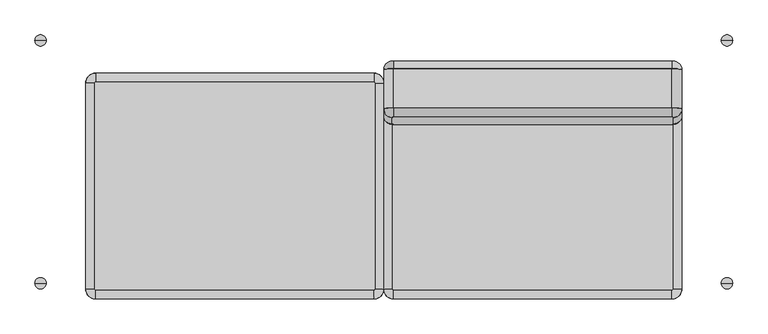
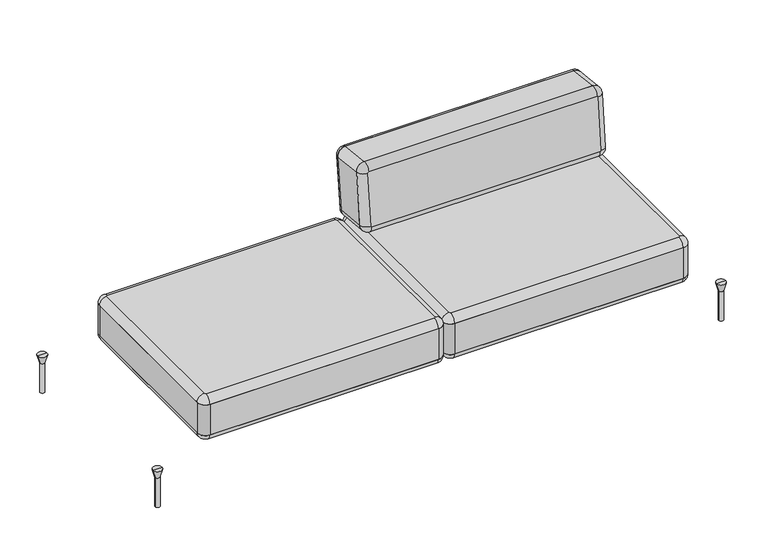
"""IFC4 building model written with IfcOpenShell, lengths in millimetres: furniture geometry, Sofa_Bensen_Neo_NEO300IT : Sofa_Bensen_Neo_NEO300IT."""

from ifc_helpers import new_model, si_unit, point, frame, frame_2d, origin, place, context, project, spatial, polyline, circle_curve, ellipse_curve, trimmed, segment, composite_curve, outline, extrude, source, transform, mapped, element, save
from ifc_brep_helpers import plane_surface, cylinder_surface, revolved_surface, advanced_brep


def furniture_9244cffa(model_context):
    return source(origin(), model_context, "Body", "SolidModel", [
        advanced_brep(
        [(1019.9999999, -485.7516759, 289.4004127), (1054.9999999, -450.7516759, 289.4004127), (1054.9999999, 279.2483241, 289.4004127), (1019.9999999, 314.2483241, 289.4004127), (34.9999999, 314.2483241, 289.4004127), (-1e-07, 279.2483241, 289.4004127), (-1e-07, -450.7516759, 289.4004127), (34.9999999, -485.7516759, 289.4004127), (1024.9999999, -450.7516759, 259.4004127), (1019.9999999, -455.7516759, 259.4004127), (34.9999999, -455.7516759, 259.4004127), (29.9999999, -450.7516759, 259.4004127), (29.9999999, 279.2483241, 259.4004127), (34.9999999, 284.2483241, 259.4004127), (1019.9999999, 284.2483241, 259.4004127), (1024.9999999, 279.2483241, 259.4004127)],
        [
            (0, 1, circle_curve(frame((1019.9999999, -450.7516759, 289.4004127), z_axis=(0.0, 0.0, 1.0), x_axis=(1.0, 0.0, 0.0)), 35.0)),
            (1, 2),
            (2, 3, circle_curve(frame((1019.9999999, 279.2483241, 289.4004127), z_axis=(0.0, 0.0, 1.0), x_axis=(0.0, 1.0, 0.0)), 35.0)),
            (3, 4),
            (4, 5, circle_curve(frame((34.9999999, 279.2483241, 289.4004127), z_axis=(0.0, 0.0, 1.0), x_axis=(-1.0, 0.0, 0.0)), 35.0)),
            (5, 6),
            (6, 7, circle_curve(frame((34.9999999, -450.7516759, 289.4004127), z_axis=(0.0, 0.0, 1.0), x_axis=(0.0, -1.0, 0.0)), 35.0)),
            (7, 0),
            (8, 9, circle_curve(frame((1019.9999999, -450.7516759, 259.4004127), z_axis=(0.0, 0.0, -1.0), x_axis=(1.0, 0.0, 0.0)), 5.0)),
            (9, 10),
            (10, 11, circle_curve(frame((34.9999999, -450.7516759, 259.4004127), z_axis=(0.0, 0.0, -1.0), x_axis=(0.0, -1.0, 0.0)), 5.0)),
            (11, 12),
            (12, 13, circle_curve(frame((34.9999999, 279.2483241, 259.4004127), z_axis=(0.0, 0.0, -1.0), x_axis=(-1.0, 0.0, 0.0)), 5.0)),
            (13, 14),
            (14, 15, circle_curve(frame((1019.9999999, 279.2483241, 259.4004127), z_axis=(0.0, 0.0, -1.0), x_axis=(0.0, 1.0, 0.0)), 5.0)),
            (15, 8),
            (8, 1, circle_curve(frame((1024.9999999, -450.7516759, 289.4004127), z_axis=(0.0, -1.0, 0.0), x_axis=(1.0, 0.0, 0.0)), 30.0)),
            (0, 9, circle_curve(frame((1019.9999999, -455.7516759, 289.4004127), z_axis=(1.0, 0.0, 0.0), x_axis=(0.0, -1.0, 0.0)), 30.0)),
            (7, 10, circle_curve(frame((34.9999999, -455.7516759, 289.4004127), z_axis=(1.0, 0.0, 0.0), x_axis=(0.0, -1.0, 0.0)), 30.0)),
            (6, 11, circle_curve(frame((29.9999999, -450.7516759, 289.4004127), z_axis=(0.0, -1.0, 0.0), x_axis=(-1.0, 0.0, 0.0)), 30.0)),
            (5, 12, circle_curve(frame((29.9999999, 279.2483241, 289.4004127), z_axis=(0.0, -1.0, 0.0), x_axis=(-1.0, 0.0, 0.0)), 30.0)),
            (4, 13, circle_curve(frame((34.9999999, 284.2483241, 289.4004127), z_axis=(-1.0, 0.0, 0.0), x_axis=(0.0, 1.0, 0.0)), 30.0)),
            (3, 14, circle_curve(frame((1019.9999999, 284.2483241, 289.4004127), z_axis=(-1.0, 0.0, 0.0), x_axis=(0.0, 1.0, 0.0)), 30.0)),
            (2, 15, circle_curve(frame((1024.9999999, 279.2483241, 289.4004127), z_axis=(0.0, 1.0, 0.0), x_axis=(1.0, 0.0, 0.0)), 30.0)),
        ],
        [
            plane_surface(frame((1019.9999999, 274.2483241, 289.4004127), z_axis=(0.0, 0.0, 1.0), x_axis=(1.0, 0.0, 0.0))),
            plane_surface(frame((1019.9999999, 274.2483241, 259.4004127), z_axis=(0.0, 0.0, -1.0), x_axis=(-1.0, 0.0, 0.0))),
            revolved_surface(trimmed(ellipse_curve(frame((1024.9999999, -450.7516759, 289.4004127), z_axis=(0.0, 1.0, 0.0), x_axis=(1.0, 0.0, 0.0)), 30.0, 30.0), [point((1054.9999999, -450.7516759, 289.4004127))], [point((1024.9999999, -450.7516759, 259.4004127))], True, "CARTESIAN"), (1019.9999999, -450.7516759, 289.4004127), (0.0, 0.0, -1.0)),
            cylinder_surface(frame((1019.9999999, -455.7516759, 289.4004127), z_axis=(1.0, 0.0, 0.0), x_axis=(0.0, -1.0, 0.0)), 30.0),
            revolved_surface(trimmed(ellipse_curve(frame((34.9999999, -455.7516759, 289.4004127), z_axis=(1.0, 0.0, 0.0), x_axis=(0.0, -1.0, 0.0)), 30.0, 30.0), [point((34.9999999, -485.7516759, 289.4004127))], [point((34.9999999, -455.7516759, 259.4004127))], True, "CARTESIAN"), (34.9999999, -450.7516759, 289.4004127), (0.0, 0.0, -1.0)),
            cylinder_surface(frame((29.9999999, -450.7516759, 289.4004127), z_axis=(0.0, -1.0, 0.0), x_axis=(-1.0, 0.0, 0.0)), 30.0),
            revolved_surface(trimmed(ellipse_curve(frame((29.9999999, 279.2483241, 289.4004127), z_axis=(0.0, -1.0, 0.0), x_axis=(-1.0, 0.0, 0.0)), 30.0, 30.0), [point((-1e-07, 279.2483241, 289.4004127))], [point((29.9999999, 279.2483241, 259.4004127))], True, "CARTESIAN"), (34.9999999, 279.2483241, 289.4004127), (0.0, 0.0, -1.0)),
            cylinder_surface(frame((34.9999999, 284.2483241, 289.4004127), z_axis=(-1.0, 0.0, 0.0), x_axis=(0.0, 1.0, 0.0)), 30.0),
            revolved_surface(trimmed(ellipse_curve(frame((1019.9999999, 284.2483241, 289.4004127), z_axis=(-1.0, 0.0, 0.0), x_axis=(0.0, 1.0, 0.0)), 30.0, 30.0), [point((1019.9999999, 314.2483241, 289.4004127))], [point((1019.9999999, 284.2483241, 259.4004127))], True, "CARTESIAN"), (1019.9999999, 279.2483241, 289.4004127), (0.0, 0.0, -1.0)),
            cylinder_surface(frame((1024.9999999, 279.2483241, 289.4004127), z_axis=(0.0, 1.0, 0.0), x_axis=(1.0, 0.0, 0.0)), 30.0),
        ],
        [
            (0, [[1, 2, 3, 4, 5, 6, 7, 8]]),
            (1, [[9, 10, 11, 12, 13, 14, 15, 16]]),
            (2, [[17, -1, 18, -9]]),
            (3, [[-18, -8, 19, -10]]),
            (4, [[-19, -7, 20, -11]]),
            (5, [[-20, -6, 21, -12]]),
            (6, [[-21, -5, 22, -13]]),
            (7, [[-22, -4, 23, -14]]),
            (8, [[-23, -3, 24, -15]]),
            (9, [[-17, -16, -24, -2]]),
        ],
    ),
        advanced_brep(
        [(1019.9999999, -485.7516759, 429.4004127), (1054.9999999, -450.7516759, 429.4004127), (1024.9999999, -450.7516759, 459.4004127), (1019.9999999, -455.7516759, 459.4004127), (34.9999999, -455.7516759, 459.4004127), (34.9999999, -485.7516759, 429.4004127), (29.9999999, -450.7516759, 459.4004127), (-1e-07, -450.7516759, 429.4004127), (29.9999999, 279.2483241, 459.4004127), (-1e-07, 279.2483241, 429.4004127), (34.9999999, 284.2483241, 459.4004127), (34.9999999, 314.2483241, 429.4004127), (1019.9999999, 284.2483241, 459.4004127), (1019.9999999, 314.2483241, 429.4004127), (1024.9999999, 279.2483241, 459.4004127), (1054.9999999, 279.2483241, 429.4004127)],
        [
            (0, 1, circle_curve(frame((1019.9999999, -450.7516759, 429.4004127), z_axis=(0.0, 0.0, 1.0), x_axis=(1.0, 0.0, 0.0)), 35.0)),
            (1, 2, circle_curve(frame((1024.9999999, -450.7516759, 429.4004127), z_axis=(0.0, -1.0, 0.0), x_axis=(1.0, 0.0, 0.0)), 30.0)),
            (2, 3, circle_curve(frame((1019.9999999, -450.7516759, 459.4004127), z_axis=(0.0, 0.0, -1.0), x_axis=(1.0, 0.0, 0.0)), 5.0)),
            (3, 0, circle_curve(frame((1019.9999999, -455.7516759, 429.4004127), z_axis=(1.0, 0.0, 0.0), x_axis=(0.0, -1.0, 0.0)), 30.0)),
            (3, 4),
            (4, 5, circle_curve(frame((34.9999999, -455.7516759, 429.4004127), z_axis=(1.0, 0.0, 0.0), x_axis=(0.0, -1.0, 0.0)), 30.0)),
            (5, 0),
            (4, 6, circle_curve(frame((34.9999999, -450.7516759, 459.4004127), z_axis=(0.0, 0.0, -1.0), x_axis=(0.0, -1.0, 0.0)), 5.0)),
            (6, 7, circle_curve(frame((29.9999999, -450.7516759, 429.4004127), z_axis=(0.0, -1.0, 0.0), x_axis=(-1.0, 0.0, 0.0)), 30.0)),
            (7, 5, circle_curve(frame((34.9999999, -450.7516759, 429.4004127), z_axis=(0.0, 0.0, 1.0), x_axis=(0.0, -1.0, 0.0)), 35.0)),
            (6, 8),
            (8, 9, circle_curve(frame((29.9999999, 279.2483241, 429.4004127), z_axis=(0.0, -1.0, 0.0), x_axis=(-1.0, 0.0, 0.0)), 30.0)),
            (9, 7),
            (8, 10, circle_curve(frame((34.9999999, 279.2483241, 459.4004127), z_axis=(0.0, 0.0, -1.0), x_axis=(-1.0, 0.0, 0.0)), 5.0)),
            (10, 11, circle_curve(frame((34.9999999, 284.2483241, 429.4004127), z_axis=(-1.0, 0.0, 0.0), x_axis=(0.0, 1.0, 0.0)), 30.0)),
            (11, 9, circle_curve(frame((34.9999999, 279.2483241, 429.4004127), z_axis=(0.0, 0.0, 1.0), x_axis=(-1.0, 0.0, 0.0)), 35.0)),
            (10, 12),
            (12, 13, circle_curve(frame((1019.9999999, 284.2483241, 429.4004127), z_axis=(-1.0, 0.0, 0.0), x_axis=(0.0, 1.0, 0.0)), 30.0)),
            (13, 11),
            (12, 14, circle_curve(frame((1019.9999999, 279.2483241, 459.4004127), z_axis=(0.0, 0.0, -1.0), x_axis=(0.0, 1.0, 0.0)), 5.0)),
            (14, 15, circle_curve(frame((1024.9999999, 279.2483241, 429.4004127), z_axis=(0.0, 1.0, 0.0), x_axis=(1.0, 0.0, 0.0)), 30.0)),
            (15, 13, circle_curve(frame((1019.9999999, 279.2483241, 429.4004127), z_axis=(0.0, 0.0, 1.0), x_axis=(0.0, 1.0, 0.0)), 35.0)),
            (1, 15),
            (14, 2),
        ],
        [
            revolved_surface(trimmed(ellipse_curve(frame((1024.9999999, -450.7516759, 429.4004127), z_axis=(0.0, 1.0, 0.0), x_axis=(1.0, 0.0, 0.0)), 30.0, 30.0), [point((1024.9999999, -450.7516759, 459.4004127))], [point((1054.9999999, -450.7516759, 429.4004127))], True, "CARTESIAN"), (1019.9999999, -450.7516759, 259.4004127), (0.0, 0.0, -1.0)),
            cylinder_surface(frame((1019.9999999, -455.7516759, 429.4004127), z_axis=(1.0, 0.0, 0.0), x_axis=(0.0, -1.0, 0.0)), 30.0),
            revolved_surface(trimmed(ellipse_curve(frame((34.9999999, -455.7516759, 429.4004127), z_axis=(1.0, 0.0, 0.0), x_axis=(0.0, -1.0, 0.0)), 30.0, 30.0), [point((34.9999999, -455.7516759, 459.4004127))], [point((34.9999999, -485.7516759, 429.4004127))], True, "CARTESIAN"), (34.9999999, -450.7516759, 259.4004127), (0.0, 0.0, -1.0)),
            cylinder_surface(frame((29.9999999, -450.7516759, 429.4004127), z_axis=(0.0, -1.0, 0.0), x_axis=(-1.0, 0.0, 0.0)), 30.0),
            revolved_surface(trimmed(ellipse_curve(frame((29.9999999, 279.2483241, 429.4004127), z_axis=(0.0, -1.0, 0.0), x_axis=(-1.0, 0.0, 0.0)), 30.0, 30.0), [point((29.9999999, 279.2483241, 459.4004127))], [point((-1e-07, 279.2483241, 429.4004127))], True, "CARTESIAN"), (34.9999999, 279.2483241, 259.4004127), (0.0, 0.0, -1.0)),
            cylinder_surface(frame((34.9999999, 284.2483241, 429.4004127), z_axis=(-1.0, 0.0, 0.0), x_axis=(0.0, 1.0, 0.0)), 30.0),
            revolved_surface(trimmed(ellipse_curve(frame((1019.9999999, 284.2483241, 429.4004127), z_axis=(-1.0, 0.0, 0.0), x_axis=(0.0, 1.0, 0.0)), 30.0, 30.0), [point((1019.9999999, 284.2483241, 459.4004127))], [point((1019.9999999, 314.2483241, 429.4004127))], True, "CARTESIAN"), (1019.9999999, 279.2483241, 259.4004127), (0.0, 0.0, -1.0)),
            cylinder_surface(frame((1024.9999999, 279.2483241, 429.4004127), z_axis=(0.0, 1.0, 0.0), x_axis=(1.0, 0.0, 0.0)), 30.0),
            plane_surface(frame((1054.9999999, 279.2483241, 429.4004127), z_axis=(0.0, 0.0, -1.0), x_axis=(0.0, -1.0, 0.0))),
            plane_surface(frame((1019.9999999, 274.2483241, 459.4004127), z_axis=(0.0, 0.0, 1.0), x_axis=(1.0, 0.0, 0.0))),
        ],
        [
            (0, [[1, 2, 3, 4]]),
            (1, [[-4, 5, 6, 7]]),
            (2, [[-6, 8, 9, 10]]),
            (3, [[-9, 11, 12, 13]]),
            (4, [[-12, 14, 15, 16]]),
            (5, [[-15, 17, 18, 19]]),
            (6, [[-18, 20, 21, 22]]),
            (7, [[-2, 23, -21, 24]]),
            (8, [[-1, -7, -10, -13, -16, -19, -22, -23]]),
            (9, [[-3, -24, -20, -17, -14, -11, -8, -5]]),
        ],
    ),
        extrude(outline(composite_curve([segment(polyline([(1054.9999999, 279.2483241), (1054.9999999, -450.7516759)]), True, "CONTINUOUS"), segment(trimmed(circle_curve(frame_2d((1019.9999999, -450.7516759)), 35.0), [point((1054.9999999, -450.7516759))], [point((1019.9999999, -485.7516759))], False, "CARTESIAN"), True, "CONTINUOUS"), segment(polyline([(1019.9999999, -485.7516759), (34.9999999, -485.7516759)]), True, "CONTINUOUS"), segment(trimmed(circle_curve(frame_2d((34.9999999, -450.7516759)), 35.0), [point((34.9999999, -485.7516759))], [point((-1e-07, -450.7516759))], False, "CARTESIAN"), True, "CONTINUOUS"), segment(polyline([(-1e-07, -450.7516759), (-1e-07, 279.2483241)]), True, "CONTINUOUS"), segment(trimmed(circle_curve(frame_2d((34.9999999, 279.2483241)), 35.0), [point((-1e-07, 279.2483241))], [point((34.9999999, 314.2483241))], False, "CARTESIAN"), True, "CONTINUOUS"), segment(polyline([(34.9999999, 314.2483241), (1019.9999999, 314.2483241)]), True, "CONTINUOUS"), segment(trimmed(circle_curve(frame_2d((1019.9999999, 279.2483241)), 35.0), [point((1019.9999999, 314.2483241))], [point((1054.9999999, 279.2483241))], False, "CARTESIAN"), True, "CONTINUOUS")], self_intersect=False)), frame((0.0, 0.0, 289.4004127), z_axis=(0.0, 0.0, 1.0), x_axis=(1.0, 0.0, 0.0)), (0.0, 0.0, 1.0), 140.0),
        advanced_brep(
        [(-35.0000001, -485.7516759, 289.4004127), (-1e-07, -450.7516759, 289.4004127), (-1e-07, 279.2483241, 289.4004127), (-35.0000001, 314.2483241, 289.4004127), (-1020.0000001, 314.2483241, 289.4004127), (-1055.0000001, 279.2483241, 289.4004127), (-1055.0000001, -450.7516759, 289.4004127), (-1020.0000001, -485.7516759, 289.4004127), (-30.0000001, -450.7516759, 259.4004127), (-35.0000001, -455.7516759, 259.4004127), (-1020.0000001, -455.7516759, 259.4004127), (-1025.0000001, -450.7516759, 259.4004127), (-1025.0000001, 279.2483241, 259.4004127), (-1020.0000001, 284.2483241, 259.4004127), (-35.0000001, 284.2483241, 259.4004127), (-30.0000001, 279.2483241, 259.4004127)],
        [
            (0, 1, circle_curve(frame((-35.0000001, -450.7516759, 289.4004127), z_axis=(0.0, 0.0, 1.0), x_axis=(1.0, 0.0, 0.0)), 35.0)),
            (1, 2),
            (2, 3, circle_curve(frame((-35.0000001, 279.2483241, 289.4004127), z_axis=(0.0, 0.0, 1.0), x_axis=(0.0, 1.0, 0.0)), 35.0)),
            (3, 4),
            (4, 5, circle_curve(frame((-1020.0000001, 279.2483241, 289.4004127), z_axis=(0.0, 0.0, 1.0), x_axis=(-1.0, 0.0, 0.0)), 35.0)),
            (5, 6),
            (6, 7, circle_curve(frame((-1020.0000001, -450.7516759, 289.4004127), z_axis=(0.0, 0.0, 1.0), x_axis=(0.0, -1.0, 0.0)), 35.0)),
            (7, 0),
            (8, 9, circle_curve(frame((-35.0000001, -450.7516759, 259.4004127), z_axis=(0.0, 0.0, -1.0), x_axis=(1.0, 0.0, 0.0)), 5.0)),
            (9, 10),
            (10, 11, circle_curve(frame((-1020.0000001, -450.7516759, 259.4004127), z_axis=(0.0, 0.0, -1.0), x_axis=(0.0, -1.0, 0.0)), 5.0)),
            (11, 12),
            (12, 13, circle_curve(frame((-1020.0000001, 279.2483241, 259.4004127), z_axis=(0.0, 0.0, -1.0), x_axis=(-1.0, 0.0, 0.0)), 5.0)),
            (13, 14),
            (14, 15, circle_curve(frame((-35.0000001, 279.2483241, 259.4004127), z_axis=(0.0, 0.0, -1.0), x_axis=(0.0, 1.0, 0.0)), 5.0)),
            (15, 8),
            (8, 1, circle_curve(frame((-30.0000001, -450.7516759, 289.4004127), z_axis=(0.0, -1.0, 0.0), x_axis=(1.0, 0.0, 0.0)), 30.0)),
            (0, 9, circle_curve(frame((-35.0000001, -455.7516759, 289.4004127), z_axis=(1.0, 0.0, 0.0), x_axis=(0.0, -1.0, 0.0)), 30.0)),
            (7, 10, circle_curve(frame((-1020.0000001, -455.7516759, 289.4004127), z_axis=(1.0, 0.0, 0.0), x_axis=(0.0, -1.0, 0.0)), 30.0)),
            (6, 11, circle_curve(frame((-1025.0000001, -450.7516759, 289.4004127), z_axis=(0.0, -1.0, 0.0), x_axis=(-1.0, 0.0, 0.0)), 30.0)),
            (5, 12, circle_curve(frame((-1025.0000001, 279.2483241, 289.4004127), z_axis=(0.0, -1.0, 0.0), x_axis=(-1.0, 0.0, 0.0)), 30.0)),
            (4, 13, circle_curve(frame((-1020.0000001, 284.2483241, 289.4004127), z_axis=(-1.0, 0.0, 0.0), x_axis=(0.0, 1.0, 0.0)), 30.0)),
            (3, 14, circle_curve(frame((-35.0000001, 284.2483241, 289.4004127), z_axis=(-1.0, 0.0, 0.0), x_axis=(0.0, 1.0, 0.0)), 30.0)),
            (2, 15, circle_curve(frame((-30.0000001, 279.2483241, 289.4004127), z_axis=(0.0, 1.0, 0.0), x_axis=(1.0, 0.0, 0.0)), 30.0)),
        ],
        [
            plane_surface(frame((-35.0000001, 274.2483241, 289.4004127), z_axis=(0.0, 0.0, 1.0), x_axis=(1.0, 0.0, 0.0))),
            plane_surface(frame((-35.0000001, 274.2483241, 259.4004127), z_axis=(0.0, 0.0, -1.0), x_axis=(-1.0, 0.0, 0.0))),
            revolved_surface(trimmed(ellipse_curve(frame((-30.0000001, -450.7516759, 289.4004127), z_axis=(0.0, 1.0, 0.0), x_axis=(1.0, 0.0, 0.0)), 30.0, 30.0), [point((-1e-07, -450.7516759, 289.4004127))], [point((-30.0000001, -450.7516759, 259.4004127))], True, "CARTESIAN"), (-35.0000001, -450.7516759, 289.4004127), (0.0, 0.0, -1.0)),
            cylinder_surface(frame((-35.0000001, -455.7516759, 289.4004127), z_axis=(1.0, 0.0, 0.0), x_axis=(0.0, -1.0, 0.0)), 30.0),
            revolved_surface(trimmed(ellipse_curve(frame((-1020.0000001, -455.7516759, 289.4004127), z_axis=(1.0, 0.0, 0.0), x_axis=(0.0, -1.0, 0.0)), 30.0, 30.0), [point((-1020.0000001, -485.7516759, 289.4004127))], [point((-1020.0000001, -455.7516759, 259.4004127))], True, "CARTESIAN"), (-1020.0000001, -450.7516759, 289.4004127), (0.0, 0.0, -1.0)),
            cylinder_surface(frame((-1025.0000001, -450.7516759, 289.4004127), z_axis=(0.0, -1.0, 0.0), x_axis=(-1.0, 0.0, 0.0)), 30.0),
            revolved_surface(trimmed(ellipse_curve(frame((-1025.0000001, 279.2483241, 289.4004127), z_axis=(0.0, -1.0, 0.0), x_axis=(-1.0, 0.0, 0.0)), 30.0, 30.0), [point((-1055.0000001, 279.2483241, 289.4004127))], [point((-1025.0000001, 279.2483241, 259.4004127))], True, "CARTESIAN"), (-1020.0000001, 279.2483241, 289.4004127), (0.0, 0.0, -1.0)),
            cylinder_surface(frame((-1020.0000001, 284.2483241, 289.4004127), z_axis=(-1.0, 0.0, 0.0), x_axis=(0.0, 1.0, 0.0)), 30.0),
            revolved_surface(trimmed(ellipse_curve(frame((-35.0000001, 284.2483241, 289.4004127), z_axis=(-1.0, 0.0, 0.0), x_axis=(0.0, 1.0, 0.0)), 30.0, 30.0), [point((-35.0000001, 314.2483241, 289.4004127))], [point((-35.0000001, 284.2483241, 259.4004127))], True, "CARTESIAN"), (-35.0000001, 279.2483241, 289.4004127), (0.0, 0.0, -1.0)),
            cylinder_surface(frame((-30.0000001, 279.2483241, 289.4004127), z_axis=(0.0, 1.0, 0.0), x_axis=(1.0, 0.0, 0.0)), 30.0),
        ],
        [
            (0, [[1, 2, 3, 4, 5, 6, 7, 8]]),
            (1, [[9, 10, 11, 12, 13, 14, 15, 16]]),
            (2, [[17, -1, 18, -9]]),
            (3, [[-18, -8, 19, -10]]),
            (4, [[-19, -7, 20, -11]]),
            (5, [[-20, -6, 21, -12]]),
            (6, [[-21, -5, 22, -13]]),
            (7, [[-22, -4, 23, -14]]),
            (8, [[-23, -3, 24, -15]]),
            (9, [[-17, -16, -24, -2]]),
        ],
    ),
        advanced_brep(
        [(-35.0000001, -485.7516759, 429.4004127), (-1e-07, -450.7516759, 429.4004127), (-30.0000001, -450.7516759, 459.4004127), (-35.0000001, -455.7516759, 459.4004127), (-1020.0000001, -455.7516759, 459.4004127), (-1020.0000001, -485.7516759, 429.4004127), (-1025.0000001, -450.7516759, 459.4004127), (-1055.0000001, -450.7516759, 429.4004127), (-1025.0000001, 279.2483241, 459.4004127), (-1055.0000001, 279.2483241, 429.4004127), (-1020.0000001, 284.2483241, 459.4004127), (-1020.0000001, 314.2483241, 429.4004127), (-35.0000001, 284.2483241, 459.4004127), (-35.0000001, 314.2483241, 429.4004127), (-30.0000001, 279.2483241, 459.4004127), (-1e-07, 279.2483241, 429.4004127)],
        [
            (0, 1, circle_curve(frame((-35.0000001, -450.7516759, 429.4004127), z_axis=(0.0, 0.0, 1.0), x_axis=(1.0, 0.0, 0.0)), 35.0)),
            (1, 2, circle_curve(frame((-30.0000001, -450.7516759, 429.4004127), z_axis=(0.0, -1.0, 0.0), x_axis=(1.0, 0.0, 0.0)), 30.0)),
            (2, 3, circle_curve(frame((-35.0000001, -450.7516759, 459.4004127), z_axis=(0.0, 0.0, -1.0), x_axis=(1.0, 0.0, 0.0)), 5.0)),
            (3, 0, circle_curve(frame((-35.0000001, -455.7516759, 429.4004127), z_axis=(1.0, 0.0, 0.0), x_axis=(0.0, -1.0, 0.0)), 30.0)),
            (3, 4),
            (4, 5, circle_curve(frame((-1020.0000001, -455.7516759, 429.4004127), z_axis=(1.0, 0.0, 0.0), x_axis=(0.0, -1.0, 0.0)), 30.0)),
            (5, 0),
            (4, 6, circle_curve(frame((-1020.0000001, -450.7516759, 459.4004127), z_axis=(0.0, 0.0, -1.0), x_axis=(0.0, -1.0, 0.0)), 5.0)),
            (6, 7, circle_curve(frame((-1025.0000001, -450.7516759, 429.4004127), z_axis=(0.0, -1.0, 0.0), x_axis=(-1.0, 0.0, 0.0)), 30.0)),
            (7, 5, circle_curve(frame((-1020.0000001, -450.7516759, 429.4004127), z_axis=(0.0, 0.0, 1.0), x_axis=(0.0, -1.0, 0.0)), 35.0)),
            (6, 8),
            (8, 9, circle_curve(frame((-1025.0000001, 279.2483241, 429.4004127), z_axis=(0.0, -1.0, 0.0), x_axis=(-1.0, 0.0, 0.0)), 30.0)),
            (9, 7),
            (8, 10, circle_curve(frame((-1020.0000001, 279.2483241, 459.4004127), z_axis=(0.0, 0.0, -1.0), x_axis=(-1.0, 0.0, 0.0)), 5.0)),
            (10, 11, circle_curve(frame((-1020.0000001, 284.2483241, 429.4004127), z_axis=(-1.0, 0.0, 0.0), x_axis=(0.0, 1.0, 0.0)), 30.0)),
            (11, 9, circle_curve(frame((-1020.0000001, 279.2483241, 429.4004127), z_axis=(0.0, 0.0, 1.0), x_axis=(-1.0, 0.0, 0.0)), 35.0)),
            (10, 12),
            (12, 13, circle_curve(frame((-35.0000001, 284.2483241, 429.4004127), z_axis=(-1.0, 0.0, 0.0), x_axis=(0.0, 1.0, 0.0)), 30.0)),
            (13, 11),
            (12, 14, circle_curve(frame((-35.0000001, 279.2483241, 459.4004127), z_axis=(0.0, 0.0, -1.0), x_axis=(0.0, 1.0, 0.0)), 5.0)),
            (14, 15, circle_curve(frame((-30.0000001, 279.2483241, 429.4004127), z_axis=(0.0, 1.0, 0.0), x_axis=(1.0, 0.0, 0.0)), 30.0)),
            (15, 13, circle_curve(frame((-35.0000001, 279.2483241, 429.4004127), z_axis=(0.0, 0.0, 1.0), x_axis=(0.0, 1.0, 0.0)), 35.0)),
            (1, 15),
            (14, 2),
        ],
        [
            revolved_surface(trimmed(ellipse_curve(frame((-30.0000001, -450.7516759, 429.4004127), z_axis=(0.0, 1.0, 0.0), x_axis=(1.0, 0.0, 0.0)), 30.0, 30.0), [point((-30.0000001, -450.7516759, 459.4004127))], [point((-1e-07, -450.7516759, 429.4004127))], True, "CARTESIAN"), (-35.0000001, -450.7516759, 259.4004127), (0.0, 0.0, -1.0)),
            cylinder_surface(frame((-35.0000001, -455.7516759, 429.4004127), z_axis=(1.0, 0.0, 0.0), x_axis=(0.0, -1.0, 0.0)), 30.0),
            revolved_surface(trimmed(ellipse_curve(frame((-1020.0000001, -455.7516759, 429.4004127), z_axis=(1.0, 0.0, 0.0), x_axis=(0.0, -1.0, 0.0)), 30.0, 30.0), [point((-1020.0000001, -455.7516759, 459.4004127))], [point((-1020.0000001, -485.7516759, 429.4004127))], True, "CARTESIAN"), (-1020.0000001, -450.7516759, 259.4004127), (0.0, 0.0, -1.0)),
            cylinder_surface(frame((-1025.0000001, -450.7516759, 429.4004127), z_axis=(0.0, -1.0, 0.0), x_axis=(-1.0, 0.0, 0.0)), 30.0),
            revolved_surface(trimmed(ellipse_curve(frame((-1025.0000001, 279.2483241, 429.4004127), z_axis=(0.0, -1.0, 0.0), x_axis=(-1.0, 0.0, 0.0)), 30.0, 30.0), [point((-1025.0000001, 279.2483241, 459.4004127))], [point((-1055.0000001, 279.2483241, 429.4004127))], True, "CARTESIAN"), (-1020.0000001, 279.2483241, 259.4004127), (0.0, 0.0, -1.0)),
            cylinder_surface(frame((-1020.0000001, 284.2483241, 429.4004127), z_axis=(-1.0, 0.0, 0.0), x_axis=(0.0, 1.0, 0.0)), 30.0),
            revolved_surface(trimmed(ellipse_curve(frame((-35.0000001, 284.2483241, 429.4004127), z_axis=(-1.0, 0.0, 0.0), x_axis=(0.0, 1.0, 0.0)), 30.0, 30.0), [point((-35.0000001, 284.2483241, 459.4004127))], [point((-35.0000001, 314.2483241, 429.4004127))], True, "CARTESIAN"), (-35.0000001, 279.2483241, 259.4004127), (0.0, 0.0, -1.0)),
            cylinder_surface(frame((-30.0000001, 279.2483241, 429.4004127), z_axis=(0.0, 1.0, 0.0), x_axis=(1.0, 0.0, 0.0)), 30.0),
            plane_surface(frame((-1e-07, 279.2483241, 429.4004127), z_axis=(0.0, 0.0, -1.0), x_axis=(0.0, -1.0, 0.0))),
            plane_surface(frame((-35.0000001, 274.2483241, 459.4004127), z_axis=(0.0, 0.0, 1.0), x_axis=(1.0, 0.0, 0.0))),
        ],
        [
            (0, [[1, 2, 3, 4]]),
            (1, [[-4, 5, 6, 7]]),
            (2, [[-6, 8, 9, 10]]),
            (3, [[-9, 11, 12, 13]]),
            (4, [[-12, 14, 15, 16]]),
            (5, [[-15, 17, 18, 19]]),
            (6, [[-18, 20, 21, 22]]),
            (7, [[-2, 23, -21, 24]]),
            (8, [[-1, -7, -10, -13, -16, -19, -22, -23]]),
            (9, [[-3, -24, -20, -17, -14, -11, -8, -5]]),
        ],
    ),
        extrude(outline(composite_curve([segment(polyline([(-1e-07, 279.2483241), (-1e-07, -450.7516759)]), True, "CONTINUOUS"), segment(trimmed(circle_curve(frame_2d((-35.0000001, -450.7516759)), 35.0), [point((-1e-07, -450.7516759))], [point((-35.0000001, -485.7516759))], False, "CARTESIAN"), True, "CONTINUOUS"), segment(polyline([(-35.0000001, -485.7516759), (-1020.0000001, -485.7516759)]), True, "CONTINUOUS"), segment(trimmed(circle_curve(frame_2d((-1020.0000001, -450.7516759)), 35.0), [point((-1020.0000001, -485.7516759))], [point((-1055.0000001, -450.7516759))], False, "CARTESIAN"), True, "CONTINUOUS"), segment(polyline([(-1055.0000001, -450.7516759), (-1055.0000001, 279.2483241)]), True, "CONTINUOUS"), segment(trimmed(circle_curve(frame_2d((-1020.0000001, 279.2483241)), 35.0), [point((-1055.0000001, 279.2483241))], [point((-1020.0000001, 314.2483241))], False, "CARTESIAN"), True, "CONTINUOUS"), segment(polyline([(-1020.0000001, 314.2483241), (-35.0000001, 314.2483241)]), True, "CONTINUOUS"), segment(trimmed(circle_curve(frame_2d((-35.0000001, 279.2483241)), 35.0), [point((-35.0000001, 314.2483241))], [point((-1e-07, 279.2483241))], False, "CARTESIAN"), True, "CONTINUOUS")], self_intersect=False)), frame((0.0, 0.0, 289.4004127), z_axis=(0.0, 0.0, 1.0), x_axis=(1.0, 0.0, 0.0)), (0.0, 0.0, 1.0), 140.0),
        advanced_brep(
        [(35.0, 330.2036921, 743.2087665), (0.0, 326.5451959, 708.4005002), (0.0, 302.5036494, 479.6604642), (35.0, 298.8451531, 444.8521979), (1020.0, 298.8451531, 444.8521979), (1055.0, 302.5036494, 479.6604642), (1055.0, 326.5451959, 708.4005002), (1020.0, 330.2036921, 743.2087665), (30.0, 356.3808528, 705.2646463), (35.0, 356.9034951, 710.2372557), (1020.0, 356.9034951, 710.2372557), (1025.0, 356.3808528, 705.2646463), (1025.0, 332.3393062, 476.5246103), (1020.0, 331.8166639, 471.5520008), (35.0, 331.8166639, 471.5520008), (30.0, 332.3393062, 476.5246103)],
        [
            (0, 1, circle_curve(frame((35.0, 326.5451959, 708.4005002), z_axis=(0.0, -0.9945218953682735, 0.10452846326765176), x_axis=(-1.0, 0.0, 0.0)), 35.0)),
            (1, 2),
            (2, 3, circle_curve(frame((35.0, 302.5036494, 479.6604642), z_axis=(0.0, -0.9945218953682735, 0.10452846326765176), x_axis=(0.0, -0.10452846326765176, -0.9945218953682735)), 35.0)),
            (3, 4),
            (4, 5, circle_curve(frame((1020.0, 302.5036494, 479.6604642), z_axis=(0.0, -0.9945218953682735, 0.10452846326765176), x_axis=(1.0, 0.0, 0.0)), 35.0)),
            (5, 6),
            (6, 7, circle_curve(frame((1020.0, 326.5451959, 708.4005002), z_axis=(0.0, -0.9945218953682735, 0.10452846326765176), x_axis=(0.0, 0.10452846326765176, 0.9945218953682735)), 35.0)),
            (7, 0),
            (8, 9, circle_curve(frame((35.0, 356.3808528, 705.2646463), z_axis=(0.0, 0.9945218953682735, -0.10452846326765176), x_axis=(-1.0, 0.0, 0.0)), 5.0)),
            (9, 10),
            (10, 11, circle_curve(frame((1020.0, 356.3808528, 705.2646463), z_axis=(0.0, 0.9945218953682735, -0.10452846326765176), x_axis=(0.0, 0.10452846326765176, 0.9945218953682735)), 5.0)),
            (11, 12),
            (12, 13, circle_curve(frame((1020.0, 332.3393062, 476.5246103), z_axis=(0.0, 0.9945218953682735, -0.10452846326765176), x_axis=(1.0, 0.0, 0.0)), 5.0)),
            (13, 14),
            (14, 15, circle_curve(frame((35.0, 332.3393062, 476.5246103), z_axis=(0.0, 0.9945218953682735, -0.10452846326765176), x_axis=(0.0, -0.10452846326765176, -0.9945218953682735)), 5.0)),
            (15, 8),
            (8, 1, circle_curve(frame((30.0, 326.5451959, 708.4005002), z_axis=(0.0, 0.10452846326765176, 0.9945218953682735), x_axis=(-1.0, 0.0, 0.0)), 30.0)),
            (0, 9, circle_curve(frame((35.0, 327.0678382, 713.3731096), z_axis=(-1.0, 0.0, 0.0), x_axis=(0.0, 0.10452846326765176, 0.9945218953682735)), 30.0)),
            (7, 10, circle_curve(frame((1020.0, 327.0678382, 713.3731096), z_axis=(-1.0, 0.0, 0.0), x_axis=(0.0, 0.10452846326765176, 0.9945218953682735)), 30.0)),
            (6, 11, circle_curve(frame((1025.0, 326.5451959, 708.4005002), z_axis=(0.0, 0.10452846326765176, 0.9945218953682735), x_axis=(1.0, 0.0, 0.0)), 30.0)),
            (5, 12, circle_curve(frame((1025.0, 302.5036494, 479.6604642), z_axis=(0.0, 0.10452846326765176, 0.9945218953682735), x_axis=(1.0, 0.0, 0.0)), 30.0)),
            (4, 13, circle_curve(frame((1020.0, 301.981007, 474.6878547), z_axis=(1.0, 0.0, 0.0), x_axis=(0.0, -0.10452846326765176, -0.9945218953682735)), 30.0)),
            (3, 14, circle_curve(frame((35.0, 301.981007, 474.6878547), z_axis=(1.0, 0.0, 0.0), x_axis=(0.0, -0.10452846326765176, -0.9945218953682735)), 30.0)),
            (2, 15, circle_curve(frame((30.0, 302.5036494, 479.6604642), z_axis=(0.0, -0.10452846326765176, -0.9945218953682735), x_axis=(-1.0, 0.0, 0.0)), 30.0)),
        ],
        [
            plane_surface(frame((35.0, 303.0262917, 484.6330737), z_axis=(0.0, -0.9945218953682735, 0.10452846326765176), x_axis=(-1.0, 0.0, 0.0))),
            plane_surface(frame((35.0, 332.8619485, 481.4972198), z_axis=(0.0, 0.9945218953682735, -0.10452846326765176), x_axis=(1.0, 0.0, 0.0))),
            revolved_surface(trimmed(ellipse_curve(frame((30.0, 326.5451959, 708.4005002), z_axis=(0.0, -0.10452846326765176, -0.9945218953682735), x_axis=(-1.0, 0.0, 0.0)), 30.0, 30.0), [point((0.0, 326.5451959, 708.4005002))], [point((30.0, 356.3808528, 705.2646463))], True, "CARTESIAN"), (35.0, 326.5451959, 708.4005002), (0.0, 0.9945218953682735, -0.10452846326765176)),
            cylinder_surface(frame((35.0, 327.0678382, 713.3731096), z_axis=(-1.0, 0.0, 0.0), x_axis=(0.0, 0.10452846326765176, 0.9945218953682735)), 30.0),
            revolved_surface(trimmed(ellipse_curve(frame((1020.0, 327.0678382, 713.3731096), z_axis=(-1.0, 0.0, 0.0), x_axis=(0.0, 0.10452846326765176, 0.9945218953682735)), 30.0, 30.0), [point((1020.0, 330.2036921, 743.2087665))], [point((1020.0, 356.9034951, 710.2372557))], True, "CARTESIAN"), (1020.0, 326.5451959, 708.4005002), (0.0, 0.9945218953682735, -0.10452846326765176)),
            cylinder_surface(frame((1025.0, 326.5451959, 708.4005002), z_axis=(0.0, 0.10452846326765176, 0.9945218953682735), x_axis=(1.0, 0.0, 0.0)), 30.0),
            revolved_surface(trimmed(ellipse_curve(frame((1025.0, 302.5036494, 479.6604642), z_axis=(0.0, 0.10452846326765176, 0.9945218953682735), x_axis=(1.0, 0.0, 0.0)), 30.0, 30.0), [point((1055.0, 302.5036494, 479.6604642))], [point((1025.0, 332.3393062, 476.5246103))], True, "CARTESIAN"), (1020.0, 302.5036494, 479.6604642), (0.0, 0.9945218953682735, -0.10452846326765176)),
            cylinder_surface(frame((1020.0, 301.981007, 474.6878547), z_axis=(1.0, 0.0, 0.0), x_axis=(0.0, -0.10452846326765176, -0.9945218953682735)), 30.0),
            revolved_surface(trimmed(ellipse_curve(frame((35.0, 301.981007, 474.6878547), z_axis=(1.0, 0.0, 0.0), x_axis=(0.0, -0.10452846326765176, -0.9945218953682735)), 30.0, 30.0), [point((35.0, 298.8451531, 444.8521979))], [point((35.0, 331.8166639, 471.5520008))], True, "CARTESIAN"), (35.0, 302.5036494, 479.6604642), (0.0, 0.9945218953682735, -0.10452846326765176)),
            cylinder_surface(frame((30.0, 302.5036494, 479.6604642), z_axis=(0.0, -0.10452846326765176, -0.9945218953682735), x_axis=(-1.0, 0.0, 0.0)), 30.0),
        ],
        [
            (0, [[1, 2, 3, 4, 5, 6, 7, 8]]),
            (1, [[9, 10, 11, 12, 13, 14, 15, 16]]),
            (2, [[17, -1, 18, -9]]),
            (3, [[-18, -8, 19, -10]]),
            (4, [[-19, -7, 20, -11]]),
            (5, [[-20, -6, 21, -12]]),
            (6, [[-21, -5, 22, -13]]),
            (7, [[-22, -4, 23, -14]]),
            (8, [[-23, -3, 24, -15]]),
            (9, [[-17, -16, -24, -2]]),
        ],
    ),
        advanced_brep(
        [(35.0, 190.9706268, 757.8427514), (0.0, 187.3121306, 723.034485), (30.0, 157.4764737, 726.1703389), (35.0, 157.999116, 731.1429484), (1020.0, 157.999116, 731.1429484), (1020.0, 190.9706268, 757.8427514), (1025.0, 157.4764737, 726.1703389), (1055.0, 187.3121306, 723.034485), (1025.0, 133.4349271, 497.430303), (1055.0, 163.270584, 494.2944491), (1020.0, 132.9122848, 492.4576935), (1020.0, 159.6120878, 459.4861827), (35.0, 132.9122848, 492.4576935), (35.0, 159.6120878, 459.4861827), (30.0, 133.4349271, 497.430303), (0.0, 163.270584, 494.2944491)],
        [
            (0, 1, circle_curve(frame((35.0, 187.3121306, 723.034485), z_axis=(0.0, -0.9945218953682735, 0.10452846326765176), x_axis=(-1.0, 0.0, 0.0)), 35.0)),
            (1, 2, circle_curve(frame((30.0, 187.3121306, 723.034485), z_axis=(0.0, 0.10452846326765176, 0.9945218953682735), x_axis=(-1.0, 0.0, 0.0)), 30.0)),
            (2, 3, circle_curve(frame((35.0, 157.4764737, 726.1703389), z_axis=(0.0, 0.9945218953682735, -0.10452846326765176), x_axis=(-1.0, 0.0, 0.0)), 5.0)),
            (3, 0, circle_curve(frame((35.0, 187.8347729, 728.0070945), z_axis=(-1.0, 0.0, 0.0), x_axis=(0.0, 0.10452846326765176, 0.9945218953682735)), 30.0)),
            (3, 4),
            (4, 5, circle_curve(frame((1020.0, 187.8347729, 728.0070945), z_axis=(-1.0, 0.0, 0.0), x_axis=(0.0, 0.10452846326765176, 0.9945218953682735)), 30.0)),
            (5, 0),
            (4, 6, circle_curve(frame((1020.0, 157.4764737, 726.1703389), z_axis=(0.0, 0.9945218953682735, -0.10452846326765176), x_axis=(0.0, 0.10452846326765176, 0.9945218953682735)), 5.0)),
            (6, 7, circle_curve(frame((1025.0, 187.3121306, 723.034485), z_axis=(0.0, 0.10452846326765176, 0.9945218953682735), x_axis=(1.0, 0.0, 0.0)), 30.0)),
            (7, 5, circle_curve(frame((1020.0, 187.3121306, 723.034485), z_axis=(0.0, -0.9945218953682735, 0.10452846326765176), x_axis=(0.0, 0.10452846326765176, 0.9945218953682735)), 35.0)),
            (6, 8),
            (8, 9, circle_curve(frame((1025.0, 163.270584, 494.2944491), z_axis=(0.0, 0.10452846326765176, 0.9945218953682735), x_axis=(1.0, 0.0, 0.0)), 30.0)),
            (9, 7),
            (8, 10, circle_curve(frame((1020.0, 133.4349271, 497.430303), z_axis=(0.0, 0.9945218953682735, -0.10452846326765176), x_axis=(1.0, 0.0, 0.0)), 5.0)),
            (10, 11, circle_curve(frame((1020.0, 162.7479417, 489.3218396), z_axis=(1.0, 0.0, 0.0), x_axis=(0.0, -0.10452846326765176, -0.9945218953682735)), 30.0)),
            (11, 9, circle_curve(frame((1020.0, 163.270584, 494.2944491), z_axis=(0.0, -0.9945218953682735, 0.10452846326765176), x_axis=(1.0, 0.0, 0.0)), 35.0)),
            (10, 12),
            (12, 13, circle_curve(frame((35.0, 162.7479417, 489.3218396), z_axis=(1.0, 0.0, 0.0), x_axis=(0.0, -0.10452846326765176, -0.9945218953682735)), 30.0)),
            (13, 11),
            (12, 14, circle_curve(frame((35.0, 133.4349271, 497.430303), z_axis=(0.0, 0.9945218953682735, -0.10452846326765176), x_axis=(0.0, -0.10452846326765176, -0.9945218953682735)), 5.0)),
            (14, 15, circle_curve(frame((30.0, 163.270584, 494.2944491), z_axis=(0.0, -0.10452846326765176, -0.9945218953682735), x_axis=(-1.0, 0.0, 0.0)), 30.0)),
            (15, 13, circle_curve(frame((35.0, 163.270584, 494.2944491), z_axis=(0.0, -0.9945218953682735, 0.10452846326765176), x_axis=(0.0, -0.10452846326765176, -0.9945218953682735)), 35.0)),
            (1, 15),
            (14, 2),
        ],
        [
            revolved_surface(trimmed(ellipse_curve(frame((30.0, 187.3121306, 723.034485), z_axis=(0.0, -0.10452846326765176, -0.9945218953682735), x_axis=(-1.0, 0.0, 0.0)), 30.0, 30.0), [point((30.0, 157.4764737, 726.1703389))], [point((0.0, 187.3121306, 723.034485))], True, "CARTESIAN"), (35.0, 356.3808528, 705.2646463), (0.0, 0.9945218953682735, -0.10452846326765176)),
            cylinder_surface(frame((35.0, 187.8347729, 728.0070945), z_axis=(-1.0, 0.0, 0.0), x_axis=(0.0, 0.10452846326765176, 0.9945218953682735)), 30.0),
            revolved_surface(trimmed(ellipse_curve(frame((1020.0, 187.8347729, 728.0070945), z_axis=(-1.0, 0.0, 0.0), x_axis=(0.0, 0.10452846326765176, 0.9945218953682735)), 30.0, 30.0), [point((1020.0, 157.999116, 731.1429484))], [point((1020.0, 190.9706268, 757.8427514))], True, "CARTESIAN"), (1020.0, 356.3808528, 705.2646463), (0.0, 0.9945218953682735, -0.10452846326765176)),
            cylinder_surface(frame((1025.0, 187.3121306, 723.034485), z_axis=(0.0, 0.10452846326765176, 0.9945218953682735), x_axis=(1.0, 0.0, 0.0)), 30.0),
            revolved_surface(trimmed(ellipse_curve(frame((1025.0, 163.270584, 494.2944491), z_axis=(0.0, 0.10452846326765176, 0.9945218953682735), x_axis=(1.0, 0.0, 0.0)), 30.0, 30.0), [point((1025.0, 133.4349271, 497.430303))], [point((1055.0, 163.270584, 494.2944491))], True, "CARTESIAN"), (1020.0, 332.3393062, 476.5246103), (0.0, 0.9945218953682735, -0.10452846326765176)),
            cylinder_surface(frame((1020.0, 162.7479417, 489.3218396), z_axis=(1.0, 0.0, 0.0), x_axis=(0.0, -0.10452846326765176, -0.9945218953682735)), 30.0),
            revolved_surface(trimmed(ellipse_curve(frame((35.0, 162.7479417, 489.3218396), z_axis=(1.0, 0.0, 0.0), x_axis=(0.0, -0.10452846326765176, -0.9945218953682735)), 30.0, 30.0), [point((35.0, 132.9122848, 492.4576935))], [point((35.0, 159.6120878, 459.4861827))], True, "CARTESIAN"), (35.0, 332.3393062, 476.5246103), (0.0, 0.9945218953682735, -0.10452846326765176)),
            cylinder_surface(frame((30.0, 163.270584, 494.2944491), z_axis=(0.0, -0.10452846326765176, -0.9945218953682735), x_axis=(-1.0, 0.0, 0.0)), 30.0),
            plane_surface(frame((0.0, 163.270584, 494.2944491), z_axis=(0.0, 0.9945218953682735, -0.10452846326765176), x_axis=(0.0, 0.10452846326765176, 0.9945218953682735))),
            plane_surface(frame((35.0, 133.9575695, 502.4029125), z_axis=(0.0, -0.9945218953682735, 0.10452846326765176), x_axis=(-1.0, 0.0, 0.0))),
        ],
        [
            (0, [[1, 2, 3, 4]]),
            (1, [[-4, 5, 6, 7]]),
            (2, [[-6, 8, 9, 10]]),
            (3, [[-9, 11, 12, 13]]),
            (4, [[-12, 14, 15, 16]]),
            (5, [[-15, 17, 18, 19]]),
            (6, [[-18, 20, 21, 22]]),
            (7, [[-2, 23, -21, 24]]),
            (8, [[-1, -7, -10, -13, -16, -19, -22, -23]]),
            (9, [[-3, -24, -20, -17, -14, -11, -8, -5]]),
        ],
    ),
        extrude(outline(composite_curve([segment(polyline([(-35.0, -35.0000001), (-35.0, 195.0)]), True, "CONTINUOUS"), segment(trimmed(circle_curve(frame_2d((0.0, 195.0)), 35.0), [point((-35.0, 195.0))], [point((0.0, 230.0))], False, "CARTESIAN"), True, "CONTINUOUS"), segment(polyline([(0.0, 230.0), (985.0, 230.0)]), True, "CONTINUOUS"), segment(trimmed(circle_curve(frame_2d((985.0, 195.0)), 35.0), [point((985.0, 230.0))], [point((1020.0, 195.0))], False, "CARTESIAN"), True, "CONTINUOUS"), segment(polyline([(1020.0, 195.0), (1020.0, -35.0000001)]), True, "CONTINUOUS"), segment(trimmed(circle_curve(frame_2d((985.0, -35.0000001)), 35.0), [point((1020.0, -35.0000001))], [point((985.0, -70.0))], False, "CARTESIAN"), True, "CONTINUOUS"), segment(polyline([(985.0, -70.0), (0.0, -70.0)]), True, "CONTINUOUS"), segment(trimmed(circle_curve(frame_2d((0.0, -35.0000001)), 35.0), [point((0.0, -70.0))], [point((-35.0, -35.0000001))], False, "CARTESIAN"), True, "CONTINUOUS")], self_intersect=False)), frame((35.0, 306.1621456, 514.4687306), z_axis=(0.0, -0.9945218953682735, 0.10452846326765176), x_axis=(1.0, 0.0, 0.0)), (0.0, 0.0, 1.0), 140.0),
        advanced_brep(
        [(1215.0275996, 430.0263245, 0.0), (1224.8719303, 430.0263245, 0.0), (1205.1832689, 430.0263245, 0.0), (1195.0551992, 430.0263245, 170.0), (1235.0, 430.0263245, 170.0), (1215.0275996, 430.0263245, 170.0), (1205.1832689, 430.0263245, 133.7982678), (1224.8719303, 430.0263245, 133.7982678)],
        [
            (0, 1),
            (1, 2, circle_curve(frame((1215.0275996, 430.0263245, 0.0), z_axis=(0.0, 0.0, -1.0), x_axis=(1.0, 0.0, 0.0)), 9.8443307)),
            (2, 0),
            (2, 1, circle_curve(frame((1215.0275996, 430.0263245, 0.0), z_axis=(0.0, 0.0, -1.0), x_axis=(1.0, 0.0, 0.0)), 9.8443307)),
            (3, 4, circle_curve(frame((1215.0275996, 430.0263245, 170.0), z_axis=(0.0, 0.0, 1.0), x_axis=(1.0, 0.0, 0.0)), 19.9724004)),
            (4, 5),
            (5, 3),
            (4, 3, circle_curve(frame((1215.0275996, 430.0263245, 170.0), z_axis=(0.0, 0.0, 1.0), x_axis=(1.0, 0.0, 0.0)), 19.9724004)),
            (6, 7, circle_curve(frame((1215.0275996, 430.0263245, 133.7982678), z_axis=(0.0, 0.0, 1.0), x_axis=(1.0, 0.0, 0.0)), 9.8443307)),
            (7, 4),
            (3, 6),
            (7, 6, circle_curve(frame((1215.0275996, 430.0263245, 133.7982678), z_axis=(0.0, 0.0, 1.0), x_axis=(1.0, 0.0, 0.0)), 9.8443307)),
            (1, 7),
            (6, 2),
        ],
        [
            plane_surface(frame((1215.0275996, 430.0263245, 0.0), z_axis=(0.0, 0.0, -1.0), x_axis=(1.0, 0.0, 0.0))),
            plane_surface(frame((1215.0275996, 430.0263245, 170.0), z_axis=(0.0, 0.0, 1.0), x_axis=(1.0, 0.0, 0.0))),
            revolved_surface(polyline([(1235.0, 430.0263245, 170.0), (1224.8719303, 430.0263245, 133.7982678)]), (1215.0275996, 430.0263245, 210.0), (0.0, 0.0, -1.0)),
            cylinder_surface(frame((1215.0275996, 430.0263245, 210.0), z_axis=(0.0, 0.0, -1.0), x_axis=(1.0, 0.0, 0.0)), 9.8443307),
        ],
        [
            (0, [[1, 2, 3]]),
            (0, [[-3, 4, -1]]),
            (1, [[5, 6, 7]]),
            (1, [[8, -7, -6]]),
            (2, [[9, 10, -5, 11]]),
            (2, [[12, -11, -8, -10]]),
            (3, [[-2, 13, -9, 14]]),
            (3, [[-4, -14, -12, -13]]),
        ],
    ),
        advanced_brep(
        [(1215.0275996, -430.0263245, 0.0), (1205.1832689, -430.0263245, 0.0), (1224.8719303, -430.0263245, 0.0), (1195.0551992, -430.0263245, 170.0), (1215.0275996, -430.0263245, 170.0), (1235.0, -430.0263245, 170.0), (1205.1832689, -430.0263245, 133.7982678), (1224.8719303, -430.0263245, 133.7982678)],
        [
            (0, 1),
            (1, 2, circle_curve(frame((1215.0275996, -430.0263245, 0.0), z_axis=(0.0, 0.0, -1.0), x_axis=(1.0, 0.0, 0.0)), 9.8443307)),
            (2, 0),
            (2, 1, circle_curve(frame((1215.0275996, -430.0263245, 0.0), z_axis=(0.0, 0.0, -1.0), x_axis=(1.0, 0.0, 0.0)), 9.8443307)),
            (3, 4),
            (4, 5),
            (5, 3, circle_curve(frame((1215.0275996, -430.0263245, 170.0), z_axis=(0.0, 0.0, 1.0), x_axis=(1.0, 0.0, 0.0)), 19.9724004)),
            (3, 5, circle_curve(frame((1215.0275996, -430.0263245, 170.0), z_axis=(0.0, 0.0, 1.0), x_axis=(1.0, 0.0, 0.0)), 19.9724004)),
            (6, 3),
            (5, 7),
            (7, 6, circle_curve(frame((1215.0275996, -430.0263245, 133.7982678), z_axis=(0.0, 0.0, 1.0), x_axis=(1.0, 0.0, 0.0)), 9.8443307)),
            (6, 7, circle_curve(frame((1215.0275996, -430.0263245, 133.7982678), z_axis=(0.0, 0.0, 1.0), x_axis=(1.0, 0.0, 0.0)), 9.8443307)),
            (1, 6),
            (7, 2),
        ],
        [
            plane_surface(frame((1215.0275996, -430.0263245, 0.0), z_axis=(0.0, 0.0, -1.0), x_axis=(1.0, 0.0, 0.0))),
            plane_surface(frame((1215.0275996, -430.0263245, 170.0), z_axis=(0.0, 0.0, 1.0), x_axis=(1.0, 0.0, 0.0))),
            revolved_surface(polyline([(1235.0, -430.0263245, 170.0), (1224.8719303, -430.0263245, 133.7982678)]), (1215.0275996, -430.0263245, 210.0), (0.0, 0.0, -1.0)),
            cylinder_surface(frame((1215.0275996, -430.0263245, 210.0), z_axis=(0.0, 0.0, -1.0), x_axis=(1.0, 0.0, 0.0)), 9.8443307),
        ],
        [
            (0, [[1, 2, 3]]),
            (0, [[-3, 4, -1]]),
            (1, [[5, 6, 7]]),
            (1, [[-6, -5, 8]]),
            (2, [[9, -7, 10, 11]]),
            (2, [[-10, -8, -9, 12]]),
            (3, [[13, -11, 14, -2]]),
            (3, [[-14, -12, -13, -4]]),
        ],
    ),
        advanced_brep(
        [(-1215.0275996, 430.0263245, 0.0), (-1205.1832689, 430.0263245, 0.0), (-1224.8719303, 430.0263245, 0.0), (-1195.0551992, 430.0263245, 170.0), (-1215.0275996, 430.0263245, 170.0), (-1235.0, 430.0263245, 170.0), (-1205.1832689, 430.0263245, 133.7982678), (-1224.8719303, 430.0263245, 133.7982678)],
        [
            (0, 1),
            (1, 2, circle_curve(frame((-1215.0275996, 430.0263245, 0.0), z_axis=(0.0, 0.0, -1.0), x_axis=(-1.0, 0.0, 0.0)), 9.8443307)),
            (2, 0),
            (2, 1, circle_curve(frame((-1215.0275996, 430.0263245, 0.0), z_axis=(0.0, 0.0, -1.0), x_axis=(-1.0, 0.0, 0.0)), 9.8443307)),
            (3, 4),
            (4, 5),
            (5, 3, circle_curve(frame((-1215.0275996, 430.0263245, 170.0), z_axis=(0.0, 0.0, 1.0), x_axis=(-1.0, 0.0, 0.0)), 19.9724004)),
            (3, 5, circle_curve(frame((-1215.0275996, 430.0263245, 170.0), z_axis=(0.0, 0.0, 1.0), x_axis=(-1.0, 0.0, 0.0)), 19.9724004)),
            (6, 3),
            (5, 7),
            (7, 6, circle_curve(frame((-1215.0275996, 430.0263245, 133.7982678), z_axis=(0.0, 0.0, 1.0), x_axis=(-1.0, 0.0, 0.0)), 9.8443307)),
            (6, 7, circle_curve(frame((-1215.0275996, 430.0263245, 133.7982678), z_axis=(0.0, 0.0, 1.0), x_axis=(-1.0, 0.0, 0.0)), 9.8443307)),
            (1, 6),
            (7, 2),
        ],
        [
            plane_surface(frame((-1215.0275996, 430.0263245, 0.0), z_axis=(0.0, 0.0, -1.0), x_axis=(-1.0, 0.0, 0.0))),
            plane_surface(frame((-1215.0275996, 430.0263245, 170.0), z_axis=(0.0, 0.0, 1.0), x_axis=(-1.0, 0.0, 0.0))),
            revolved_surface(polyline([(-1235.0, 430.0263245, 170.0), (-1224.8719303, 430.0263245, 133.7982678)]), (-1215.0275996, 430.0263245, 210.0), (0.0, 0.0, -1.0)),
            cylinder_surface(frame((-1215.0275996, 430.0263245, 210.0), z_axis=(0.0, 0.0, -1.0), x_axis=(-1.0, 0.0, 0.0)), 9.8443307),
        ],
        [
            (0, [[1, 2, 3]]),
            (0, [[-3, 4, -1]]),
            (1, [[5, 6, 7]]),
            (1, [[-6, -5, 8]]),
            (2, [[9, -7, 10, 11]]),
            (2, [[-10, -8, -9, 12]]),
            (3, [[13, -11, 14, -2]]),
            (3, [[-14, -12, -13, -4]]),
        ],
    ),
        advanced_brep(
        [(-1215.0275996, -430.0263245, 0.0), (-1224.8719303, -430.0263245, 0.0), (-1205.1832689, -430.0263245, 0.0), (-1195.0551992, -430.0263245, 170.0), (-1235.0, -430.0263245, 170.0), (-1215.0275996, -430.0263245, 170.0), (-1205.1832689, -430.0263245, 133.7982678), (-1224.8719303, -430.0263245, 133.7982678)],
        [
            (0, 1),
            (1, 2, circle_curve(frame((-1215.0275996, -430.0263245, 0.0), z_axis=(0.0, 0.0, -1.0), x_axis=(-1.0, 0.0, 0.0)), 9.8443307)),
            (2, 0),
            (2, 1, circle_curve(frame((-1215.0275996, -430.0263245, 0.0), z_axis=(0.0, 0.0, -1.0), x_axis=(-1.0, 0.0, 0.0)), 9.8443307)),
            (3, 4, circle_curve(frame((-1215.0275996, -430.0263245, 170.0), z_axis=(0.0, 0.0, 1.0), x_axis=(-1.0, 0.0, 0.0)), 19.9724004)),
            (4, 5),
            (5, 3),
            (4, 3, circle_curve(frame((-1215.0275996, -430.0263245, 170.0), z_axis=(0.0, 0.0, 1.0), x_axis=(-1.0, 0.0, 0.0)), 19.9724004)),
            (6, 7, circle_curve(frame((-1215.0275996, -430.0263245, 133.7982678), z_axis=(0.0, 0.0, 1.0), x_axis=(-1.0, 0.0, 0.0)), 9.8443307)),
            (7, 4),
            (3, 6),
            (7, 6, circle_curve(frame((-1215.0275996, -430.0263245, 133.7982678), z_axis=(0.0, 0.0, 1.0), x_axis=(-1.0, 0.0, 0.0)), 9.8443307)),
            (1, 7),
            (6, 2),
        ],
        [
            plane_surface(frame((-1215.0275996, -430.0263245, 0.0), z_axis=(0.0, 0.0, -1.0), x_axis=(-1.0, 0.0, 0.0))),
            plane_surface(frame((-1215.0275996, -430.0263245, 170.0), z_axis=(0.0, 0.0, 1.0), x_axis=(-1.0, 0.0, 0.0))),
            revolved_surface(polyline([(-1235.0, -430.0263245, 170.0), (-1224.8719303, -430.0263245, 133.7982678)]), (-1215.0275996, -430.0263245, 210.0), (0.0, 0.0, -1.0)),
            cylinder_surface(frame((-1215.0275996, -430.0263245, 210.0), z_axis=(0.0, 0.0, -1.0), x_axis=(-1.0, 0.0, 0.0)), 9.8443307),
        ],
        [
            (0, [[1, 2, 3]]),
            (0, [[-3, 4, -1]]),
            (1, [[5, 6, 7]]),
            (1, [[8, -7, -6]]),
            (2, [[9, 10, -5, 11]]),
            (2, [[12, -11, -8, -10]]),
            (3, [[-2, 13, -9, 14]]),
            (3, [[-4, -14, -12, -13]]),
        ],
    ),
    ])


if __name__ == "__main__":
    model = new_model("IFC4")
    model_context = context("Model", 3, world=origin())
    ifc_project = project(units=[si_unit("LENGTHUNIT", "METRE", prefix="MILLI")], contexts=[model_context])
    site = spatial("IfcSite", under=ifc_project)
    building = spatial("IfcBuilding", under=site)
    placement = place(None, origin())
    furniture_shape = furniture_9244cffa(model_context)
    element("IfcFurniture", 1, ObjectType="Sofa_Bensen_Neo_NEO300IT : Sofa_Bensen_Neo_NEO300IT", at=placement, inside=building, context=model_context, shape_type="MappedRepresentation", body=[
        mapped(furniture_shape, transform((0.0, 0.0, 0.0), x_axis=(1.0, 0.0, 0.0), y_axis=(0.0, 1.0, 0.0), z_axis=(0.0, 0.0, 1.0))),
    ])
    save(model, "model.ifc")
